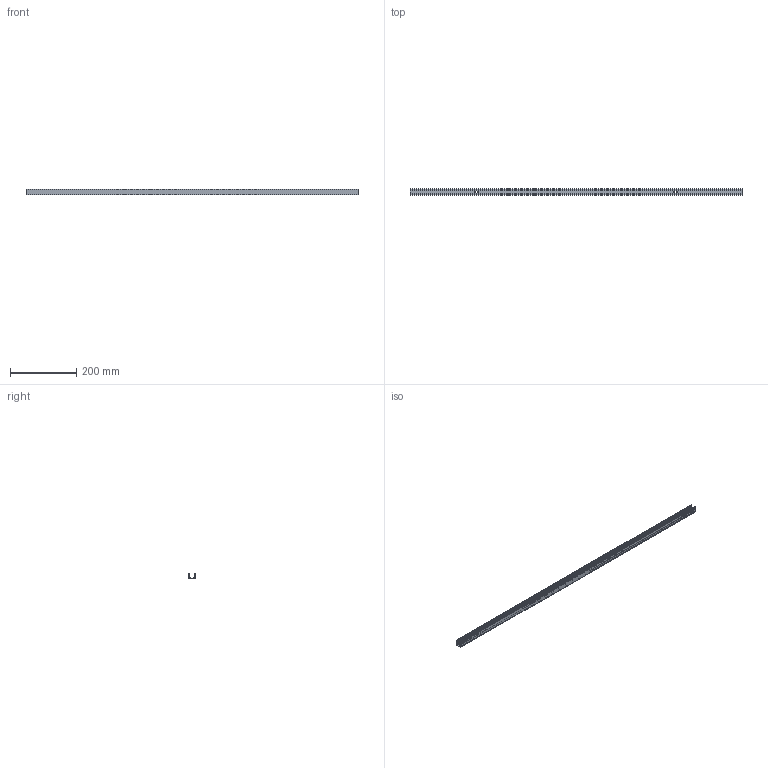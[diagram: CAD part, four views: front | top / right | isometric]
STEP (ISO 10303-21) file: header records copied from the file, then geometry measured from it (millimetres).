
FILE_DESCRIPTION(/* description */ (''),/* implementation_level */ '2;1');
FILE_NAME(/* name */ 'NF_1313_STRAIGHT_PROFILE_L1000_R01.step',/* time_stamp */ '2026-07-16T12:21:10+02:00',/* author */ (''),/* organization */ (''),/* preprocessor_version */ 'ST-DEVELOPER v20.1',/* originating_system */ 'Autodesk Translation Framework v15.8.0.0',/* authorisation */ '');
FILE_SCHEMA (('AUTOMOTIVE_DESIGN { 1 0 10303 214 3 1 1 }'));
Length unit declared in the file: millimetre
Products named in the file (1): 2026-07-16-12-00-38-010
Bounding box: 1000 x 18.55 x 17.8 mm (x, y, z)
Volume: 100686.5 mm3; surface area: 186423.5 mm2
Topology: 3 solids, 3 shells, 151 faces, 435 edges, 290 vertices
Faces by surface type: plane 70, bspline 57, cylinder 24
Entity records: 6139 total; most frequent: CARTESIAN_POINT 2454, ORIENTED_EDGE 870, DIRECTION 579, EDGE_CURVE 435, VERTEX_POINT 290, LINE 273, VECTOR 273, EDGE_LOOP 155
